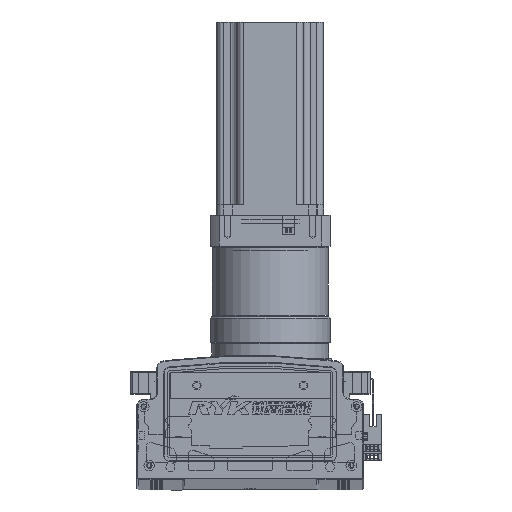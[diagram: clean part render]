
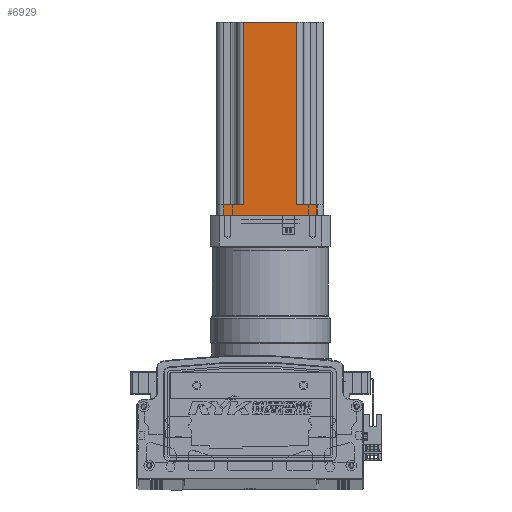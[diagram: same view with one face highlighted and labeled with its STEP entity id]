
A CAD part, top view. The second image highlights one B-rep face of the part: STEP entity #6929.
In plain terms, the highlighted planar face has unit normal (0, 0, 1) as drawn and (0, -1, 0) by its records, which use the part's own axes.
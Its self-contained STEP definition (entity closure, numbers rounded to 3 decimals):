
#6929 = ADVANCED_FACE ( 'NONE', ( #123528 ), #103130, .F. ) ;
#28206 = VERTEX_POINT ( 'NONE', #79130 ) ;
#28226 = VERTEX_POINT ( 'NONE', #79176 ) ;
#28238 = VERTEX_POINT ( 'NONE', #79138 ) ;
#28243 = VERTEX_POINT ( 'NONE', #79263 ) ;
#28259 = VERTEX_POINT ( 'NONE', #79168 ) ;
#28260 = VERTEX_POINT ( 'NONE', #79184 ) ;
#28332 = VERTEX_POINT ( 'NONE', #79428 ) ;
#28351 = VERTEX_POINT ( 'NONE', #79442 ) ;
#37771 = EDGE_CURVE ( 'NONE', #28332, #28351, #53907, .T. ) ;
#37777 = EDGE_CURVE ( 'NONE', #28226, #28243, #53991, .T. ) ;
#37786 = EDGE_CURVE ( 'NONE', #28206, #28260, #54007, .T. ) ;
#37790 = EDGE_CURVE ( 'NONE', #28243, #28238, #53931, .T. ) ;
#37850 = EDGE_CURVE ( 'NONE', #28332, #28238, #54158, .T. ) ;
#37891 = EDGE_CURVE ( 'NONE', #28259, #28351, #54265, .T. ) ;
#37934 = EDGE_CURVE ( 'NONE', #28206, #28226, #54334, .T. ) ;
#37936 = EDGE_CURVE ( 'NONE', #28259, #28260, #54307, .T. ) ;
#50966 = CARTESIAN_POINT ( 'NONE',  ( -87.587, -40.37, 0. ) ) ;
#50987 = CARTESIAN_POINT ( 'NONE',  ( -27.587, -40.37, 145. ) ) ;
#50999 = DIRECTION ( 'NONE',  ( 1., 0., 0. ) ) ;
#51018 = DIRECTION ( 'NONE',  ( 0., 0., 1. ) ) ;
#51040 = DIRECTION ( 'NONE',  ( 0., 0., 1. ) ) ;
#51082 = CARTESIAN_POINT ( 'NONE',  ( -87.587, -40.37, 8. ) ) ;
#51107 = CARTESIAN_POINT ( 'NONE',  ( -12.587, -40.37, 145. ) ) ;
#51164 = DIRECTION ( 'NONE',  ( 1., 0., 0. ) ) ;
#51321 = CARTESIAN_POINT ( 'NONE',  ( -7.587, -40.37, 8. ) ) ;
#51351 = DIRECTION ( 'NONE',  ( 1., 0., 0. ) ) ;
#51523 = DIRECTION ( 'NONE',  ( 1., 0., 0. ) ) ;
#51601 = CARTESIAN_POINT ( 'NONE',  ( -87.587, -40.37, 145. ) ) ;
#51638 = CARTESIAN_POINT ( 'NONE',  ( -82.587, -40.37, 145. ) ) ;
#51656 = DIRECTION ( 'NONE',  ( 0., 0., -1. ) ) ;
#51665 = CARTESIAN_POINT ( 'NONE',  ( -67.587, -40.37, 145. ) ) ;
#51775 = DIRECTION ( 'NONE',  ( 0., 0., -1. ) ) ;
#53902 = VECTOR ( 'NONE', #50999, 1000. ) ;
#53907 = LINE ( 'NONE', #50987, #53948 ) ;
#53931 = LINE ( 'NONE', #51107, #53963 ) ;
#53948 = VECTOR ( 'NONE', #51018, 1000. ) ;
#53963 = VECTOR ( 'NONE', #51040, 1000. ) ;
#53991 = LINE ( 'NONE', #50966, #53902 ) ;
#54005 = VECTOR ( 'NONE', #51164, 1000. ) ;
#54007 = LINE ( 'NONE', #51082, #54005 ) ;
#54141 = VECTOR ( 'NONE', #51351, 1000. ) ;
#54158 = LINE ( 'NONE', #51321, #54141 ) ;
#54245 = VECTOR ( 'NONE', #51523, 1000. ) ;
#54265 = LINE ( 'NONE', #51601, #54245 ) ;
#54273 = VECTOR ( 'NONE', #51775, 1000. ) ;
#54307 = LINE ( 'NONE', #51665, #54338 ) ;
#54334 = LINE ( 'NONE', #51638, #54273 ) ;
#54338 = VECTOR ( 'NONE', #51656, 1000. ) ;
#79130 = CARTESIAN_POINT ( 'NONE',  ( -82.587, -40.37, 8. ) ) ;
#79138 = CARTESIAN_POINT ( 'NONE',  ( -12.587, -40.37, 8. ) ) ;
#79168 = CARTESIAN_POINT ( 'NONE',  ( -67.587, -40.37, 145. ) ) ;
#79176 = CARTESIAN_POINT ( 'NONE',  ( -82.587, -40.37, 0. ) ) ;
#79184 = CARTESIAN_POINT ( 'NONE',  ( -67.587, -40.37, 8. ) ) ;
#79263 = CARTESIAN_POINT ( 'NONE',  ( -12.587, -40.37, 0. ) ) ;
#79428 = CARTESIAN_POINT ( 'NONE',  ( -27.587, -40.37, 8. ) ) ;
#79442 = CARTESIAN_POINT ( 'NONE',  ( -27.587, -40.37, 145. ) ) ;
#103111 = DIRECTION ( 'NONE',  ( 0., 1., 0. ) ) ;
#103130 = PLANE ( 'NONE',  #111633 ) ;
#103135 = CARTESIAN_POINT ( 'NONE',  ( -87.587, -40.37, 145. ) ) ;
#103163 = DIRECTION ( 'NONE',  ( -1., 0., 0. ) ) ;
#111633 = AXIS2_PLACEMENT_3D ( 'NONE', #103135, #103111, #103163 ) ;
#112728 = ORIENTED_EDGE ( 'NONE', *, *, #37777, .T. ) ;
#112756 = ORIENTED_EDGE ( 'NONE', *, *, #37790, .T. ) ;
#112765 = ORIENTED_EDGE ( 'NONE', *, *, #37786, .F. ) ;
#112785 = ORIENTED_EDGE ( 'NONE', *, *, #37934, .T. ) ;
#112787 = ORIENTED_EDGE ( 'NONE', *, *, #37850, .F. ) ;
#112821 = ORIENTED_EDGE ( 'NONE', *, *, #37936, .T. ) ;
#112831 = ORIENTED_EDGE ( 'NONE', *, *, #37891, .F. ) ;
#112887 = ORIENTED_EDGE ( 'NONE', *, *, #37771, .T. ) ;
#123528 = FACE_OUTER_BOUND ( 'NONE', #128968, .T. ) ;
#128968 = EDGE_LOOP ( 'NONE', ( #112765, #112785, #112728, #112756, #112787, #112887, #112831, #112821 ) ) ;
